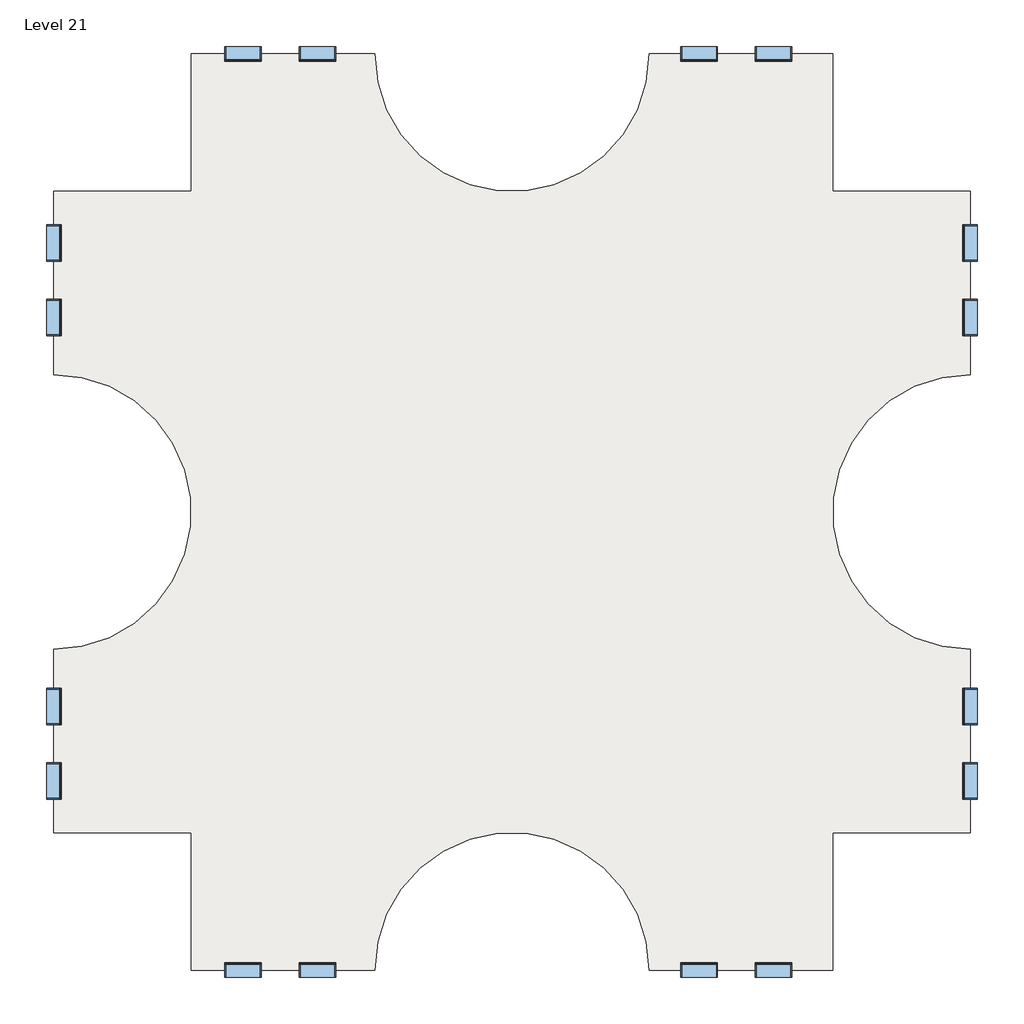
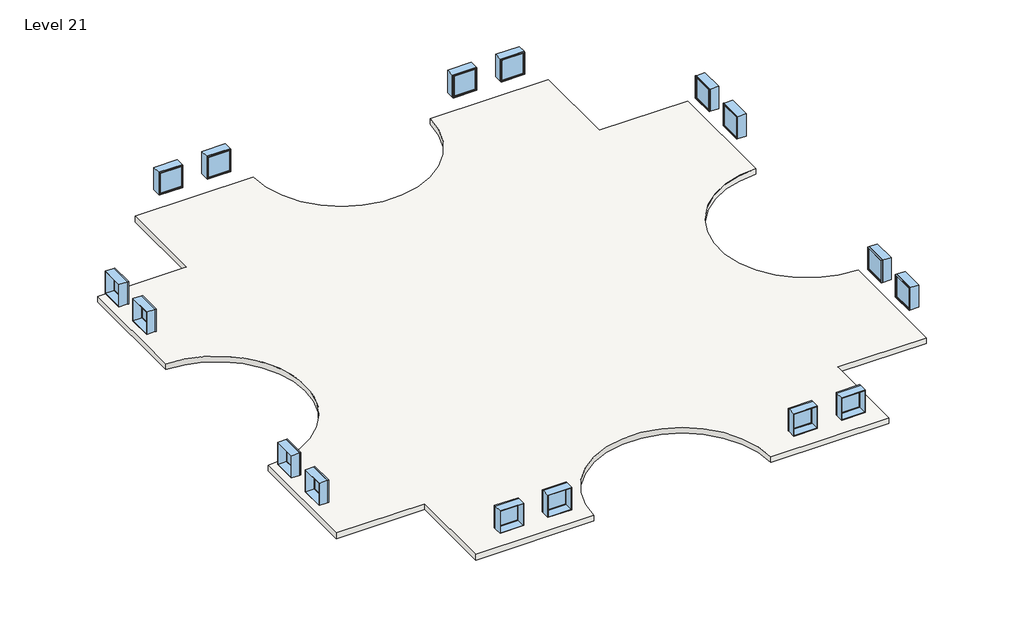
# One storey: 16 windows, 2 slabs.
"""IFC4 building model written with IfcOpenShell, lengths in millimetres."""

from ifc_helpers import new_model, si_unit, point, frame, frame_2d, origin, place, context, project, spatial, polyline, circle_curve, trimmed, segment, composite_curve, outline, extrude, transform, mapped, element, save
from components import window_d0035ecf, window_d434eb62

model = new_model("IFC4")

# Units and contexts
model_context = context("Model", 3, world=origin())
ifc_project = project(units=[si_unit("LENGTHUNIT", "METRE", prefix="MILLI")], contexts=[model_context])

# Site, building, storey
site = spatial("IfcSite", under=ifc_project)
building = spatial("IfcBuilding", under=site)
storey = spatial("IfcBuildingStorey", under=building, Name="Level 21", Elevation=60960.0)

# Slabs
placement = place(None, origin())
element("IfcSlab", 1, ObjectType="Generic - 12\"", at=placement, inside=storey, context=model_context, shape_type="SweptSolid", body=[
    extrude(outline(composite_curve([segment(polyline([(-7150.3629456, 4479.6634547), (-7150.3629456, 9051.6634547), (-1054.3629456, 9051.6634547)]), True, "CONTINUOUS"), segment(trimmed(circle_curve(frame_2d((3517.6370544, 9051.6634547)), 4572.0), [point((-1054.3629456, 9051.6634547))], [point((8089.6370544, 9051.6634547))], True, "CARTESIAN"), True, "CONTINUOUS"), segment(polyline([(8089.6370544, 9051.6634547), (14185.6370544, 9051.6634547), (14185.6370544, 4479.6634547), (18757.6370544, 4479.6634547), (18757.6370544, -1616.3365453)]), True, "CONTINUOUS"), segment(trimmed(circle_curve(frame_2d((18757.6370544, -6188.3365453)), 4572.0), [point((18757.6370544, -1616.3365453))], [point((18757.6370544, -10760.3365453))], True, "CARTESIAN"), True, "CONTINUOUS"), segment(polyline([(18757.6370544, -10760.3365453), (18757.6370544, -16856.3365453), (14185.6370544, -16856.3365453), (14185.6370544, -21428.3365453), (8089.6370544, -21428.3365453)]), True, "CONTINUOUS"), segment(trimmed(circle_curve(frame_2d((3517.6370544, -21428.3365453)), 4572.0), [point((8089.6370544, -21428.3365453))], [point((-1054.3629456, -21428.3365453))], True, "CARTESIAN"), True, "CONTINUOUS"), segment(polyline([(-1054.3629456, -21428.3365453), (-7150.3629456, -21428.3365453), (-7150.3629456, -16856.3365453), (-11722.3629456, -16856.3365453), (-11722.3629456, -10760.3365453)]), True, "CONTINUOUS"), segment(trimmed(circle_curve(frame_2d((-11722.3629456, -6188.3365453)), 4572.0), [point((-11722.3629456, -10760.3365453))], [point((-11722.3629456, -1616.3365453))], True, "CARTESIAN"), True, "CONTINUOUS"), segment(polyline([(-11722.3629456, -1616.3365453), (-11722.3629456, 4479.6634547), (-7150.3629456, 4479.6634547)]), True, "CONTINUOUS")], self_intersect=False)), frame((0.0, 0.0, 60655.2), z_axis=(0.0, 0.0, 1.0), x_axis=(1.0, 0.0, 0.0)), (0.0, 0.0, 1.0), 304.8),
])
element("IfcSlab", 2, ObjectType="Generic - 12\"", at=placement, inside=storey, context=model_context, shape_type="SweptSolid", body=[
    extrude(outline(composite_curve([segment(polyline([(-7150.3629456, 4479.6634547), (-7150.3629456, 9051.6634547), (-1054.3629456, 9051.6634547)]), True, "CONTINUOUS"), segment(trimmed(circle_curve(frame_2d((3517.6370544, 9051.6634547)), 4572.0), [point((-1054.3629456, 9051.6634547))], [point((8089.6370544, 9051.6634547))], True, "CARTESIAN"), True, "CONTINUOUS"), segment(polyline([(8089.6370544, 9051.6634547), (14185.6370544, 9051.6634547), (14185.6370544, 4479.6634547), (18757.6370544, 4479.6634547), (18757.6370544, -1616.3365453)]), True, "CONTINUOUS"), segment(trimmed(circle_curve(frame_2d((18757.6370544, -6188.3365453)), 4572.0), [point((18757.6370544, -1616.3365453))], [point((18757.6370544, -10760.3365453))], True, "CARTESIAN"), True, "CONTINUOUS"), segment(polyline([(18757.6370544, -10760.3365453), (18757.6370544, -16856.3365453), (14185.6370544, -16856.3365453), (14185.6370544, -21428.3365453), (8089.6370544, -21428.3365453)]), True, "CONTINUOUS"), segment(trimmed(circle_curve(frame_2d((3517.6370544, -21428.3365453)), 4572.0), [point((8089.6370544, -21428.3365453))], [point((-1054.3629456, -21428.3365453))], True, "CARTESIAN"), True, "CONTINUOUS"), segment(polyline([(-1054.3629456, -21428.3365453), (-7150.3629456, -21428.3365453), (-7150.3629456, -16856.3365453), (-11722.3629456, -16856.3365453), (-11722.3629456, -10760.3365453)]), True, "CONTINUOUS"), segment(trimmed(circle_curve(frame_2d((-11722.3629456, -6188.3365453)), 4572.0), [point((-11722.3629456, -10760.3365453))], [point((-11722.3629456, -1616.3365453))], True, "CARTESIAN"), True, "CONTINUOUS"), segment(polyline([(-11722.3629456, -1616.3365453), (-11722.3629456, 4479.6634547), (-7150.3629456, 4479.6634547)]), True, "CONTINUOUS")], self_intersect=False)), frame((0.0, 0.0, 60655.2), z_axis=(0.0, 0.0, 1.0), x_axis=(1.0, 0.0, 0.0)), (0.0, 0.0, 1.0), 304.8),
])

# Windows
window_shape = window_d0035ecf(model_context)
element("IfcWindow", 3, ObjectType="Fixed : 48\" x 48\"", at=placement, inside=storey, context=model_context, shape_type="MappedRepresentation", body=[
    mapped(window_shape, transform((-11719.1879456, 247.3884547, 60960.0), x_axis=(0.0, -1.0, 0.0), y_axis=(1.0, 0.0, 0.0), z_axis=(0.0, 0.0, 1.0))),
])
element("IfcWindow", 4, ObjectType="Fixed : 48\" x 48\"", at=placement, inside=storey, context=model_context, shape_type="MappedRepresentation", body=[
    mapped(window_shape, transform((-5469.1993281, 9048.4884547, 60960.0), x_axis=(-1.0, 0.0, 0.0), y_axis=(0.0, -1.0, 0.0), z_axis=(0.0, 0.0, 1.0))),
])
element("IfcWindow", 5, ObjectType="Fixed : 48\" x 48\"", at=placement, inside=storey, context=model_context, shape_type="MappedRepresentation", body=[
    mapped(window_shape, transform((-11719.1879456, -15175.1729277, 60960.0), x_axis=(0.0, -1.0, 0.0), y_axis=(1.0, 0.0, 0.0), z_axis=(0.0, 0.0, 1.0))),
])
element("IfcWindow", 6, ObjectType="Fixed : 48\" x 48\"", at=placement, inside=storey, context=model_context, shape_type="MappedRepresentation", body=[
    mapped(window_shape, transform((-2918.0879456, -21425.1615453, 60960.0), x_axis=(1.0, 0.0, 0.0), y_axis=(0.0, 1.0, 0.0), z_axis=(0.0, 0.0, 1.0))),
])
element("IfcWindow", 7, ObjectType="Fixed : 48\" x 48\"", at=placement, inside=storey, context=model_context, shape_type="MappedRepresentation", body=[
    mapped(window_shape, transform((18754.4620544, 2798.4998372, 60960.0), x_axis=(0.0, 1.0, 0.0), y_axis=(-1.0, 0.0, 0.0), z_axis=(0.0, 0.0, 1.0))),
])
element("IfcWindow", 8, ObjectType="Fixed : 48\" x 48\"", at=placement, inside=storey, context=model_context, shape_type="MappedRepresentation", body=[
    mapped(window_shape, transform((9705.7120544, 9048.4884547, 60960.0), x_axis=(-1.0, 0.0, 0.0), y_axis=(0.0, -1.0, 0.0), z_axis=(0.0, 0.0, 1.0))),
])
element("IfcWindow", 9, ObjectType="Fixed : 48\" x 48\"", at=placement, inside=storey, context=model_context, shape_type="MappedRepresentation", body=[
    mapped(window_shape, transform((18754.4620544, -12624.0615453, 60960.0), x_axis=(0.0, 1.0, 0.0), y_axis=(-1.0, 0.0, 0.0), z_axis=(0.0, 0.0, 1.0))),
])
element("IfcWindow", 10, ObjectType="Fixed : 48\" x 48\"", at=placement, inside=storey, context=model_context, shape_type="MappedRepresentation", body=[
    mapped(window_shape, transform((12256.8234368, -21425.1615453, 60960.0), x_axis=(1.0, 0.0, 0.0), y_axis=(0.0, 1.0, 0.0), z_axis=(0.0, 0.0, 1.0))),
])
window_2_shape = window_d434eb62(model_context)
element("IfcWindow", 11, ObjectType="Fixed : 48\" x 48\"", at=placement, inside=storey, context=model_context, shape_type="MappedRepresentation", body=[
    mapped(window_2_shape, transform((-11719.1879456, 2798.4998372, 60960.0), x_axis=(0.0, 1.0, 0.0), y_axis=(-1.0, 0.0, 0.0), z_axis=(0.0, 0.0, 1.0))),
])
element("IfcWindow", 12, ObjectType="Fixed : 48\" x 48\"", at=placement, inside=storey, context=model_context, shape_type="MappedRepresentation", body=[
    mapped(window_2_shape, transform((-2918.0879456, 9048.4884547, 60960.0), x_axis=(1.0, 0.0, 0.0), y_axis=(0.0, 1.0, 0.0), z_axis=(0.0, 0.0, 1.0))),
])
element("IfcWindow", 13, ObjectType="Fixed : 48\" x 48\"", at=placement, inside=storey, context=model_context, shape_type="MappedRepresentation", body=[
    mapped(window_2_shape, transform((-11719.1879456, -12624.0615453, 60960.0), x_axis=(0.0, 1.0, 0.0), y_axis=(-1.0, 0.0, 0.0), z_axis=(0.0, 0.0, 1.0))),
])
element("IfcWindow", 14, ObjectType="Fixed : 48\" x 48\"", at=placement, inside=storey, context=model_context, shape_type="MappedRepresentation", body=[
    mapped(window_2_shape, transform((-5469.1993281, -21425.1615453, 60960.0), x_axis=(-1.0, 0.0, 0.0), y_axis=(0.0, -1.0, 0.0), z_axis=(0.0, 0.0, 1.0))),
])
element("IfcWindow", 15, ObjectType="Fixed : 48\" x 48\"", at=placement, inside=storey, context=model_context, shape_type="MappedRepresentation", body=[
    mapped(window_2_shape, transform((18754.4620544, 247.3884547, 60960.0), x_axis=(0.0, -1.0, 0.0), y_axis=(1.0, 0.0, 0.0), z_axis=(0.0, 0.0, 1.0))),
])
element("IfcWindow", 16, ObjectType="Fixed : 48\" x 48\"", at=placement, inside=storey, context=model_context, shape_type="MappedRepresentation", body=[
    mapped(window_2_shape, transform((12256.8234368, 9048.4884547, 60960.0), x_axis=(1.0, 0.0, 0.0), y_axis=(0.0, 1.0, 0.0), z_axis=(0.0, 0.0, 1.0))),
])
element("IfcWindow", 17, ObjectType="Fixed : 48\" x 48\"", at=placement, inside=storey, context=model_context, shape_type="MappedRepresentation", body=[
    mapped(window_2_shape, transform((18754.4620544, -15175.1729277, 60960.0), x_axis=(0.0, -1.0, 0.0), y_axis=(1.0, 0.0, 0.0), z_axis=(0.0, 0.0, 1.0))),
])
element("IfcWindow", 18, ObjectType="Fixed : 48\" x 48\"", at=placement, inside=storey, context=model_context, shape_type="MappedRepresentation", body=[
    mapped(window_2_shape, transform((9705.7120544, -21425.1615453, 60960.0), x_axis=(-1.0, 0.0, 0.0), y_axis=(0.0, -1.0, 0.0), z_axis=(0.0, 0.0, 1.0))),
])

save(model, "model.ifc")
